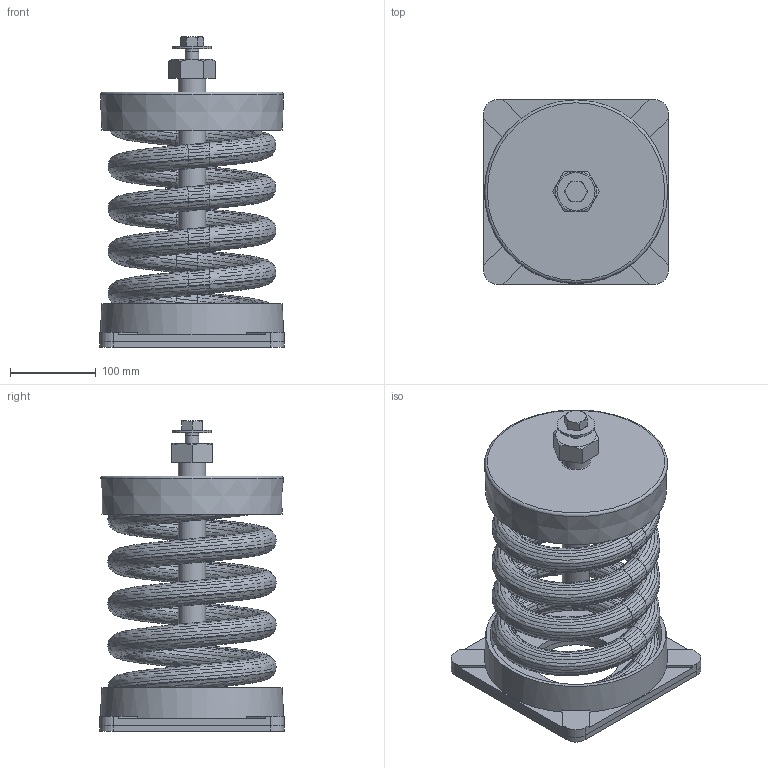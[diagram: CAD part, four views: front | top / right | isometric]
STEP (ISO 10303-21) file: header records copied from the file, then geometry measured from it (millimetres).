
FILE_DESCRIPTION(/* description */ (''),/* implementation_level */ '2;1');
FILE_NAME(/* name */ 'C:\001_Work\Designs\SLF ASSEMBLIES\SLF-137.stp',/* time_stamp */ '2016-01-11T10:07:32-05:00',/* author */ ('rramoutar'),/* organization */ ('Mason Industries Inc.'),/* preprocessor_version */ 'ST-DEVELOPER v15.6',/* originating_system */ 'Autodesk Inventor 2015',/* authorisation */ '');
FILE_SCHEMA (('CONFIG_CONTROL_DESIGN'));
Products named in the file (1): SLF-137
Bounding box: 215.9 x 215.9 x 363.07 mm (x, y, z)
Volume: 1602141.3 mm3; surface area: 888807.3 mm2
Topology: 7 solids, 7 shells, 696 faces, 1474 edges, 802 vertices
Faces by surface type: bspline 506, plane 133, cone 30, cylinder 25, torus 2
Full cylindrical faces by diameter (mm): 12.7 x4, 13.386 x1, 15.875 x1, 16.662 x1, 23.825 x1, 28.178 x1, 31.75 x1, 44.45 x1, 101.6 x2, 201.612 x2
Entity records: 38431 total; most frequent: CARTESIAN_POINT 26886, ORIENTED_EDGE 2890, EDGE_CURVE 1445, B_SPLINE_CURVE_WITH_KNOTS 1019, DIRECTION 847, VERTEX_POINT 796, EDGE_LOOP 739, STYLED_ITEM 703
